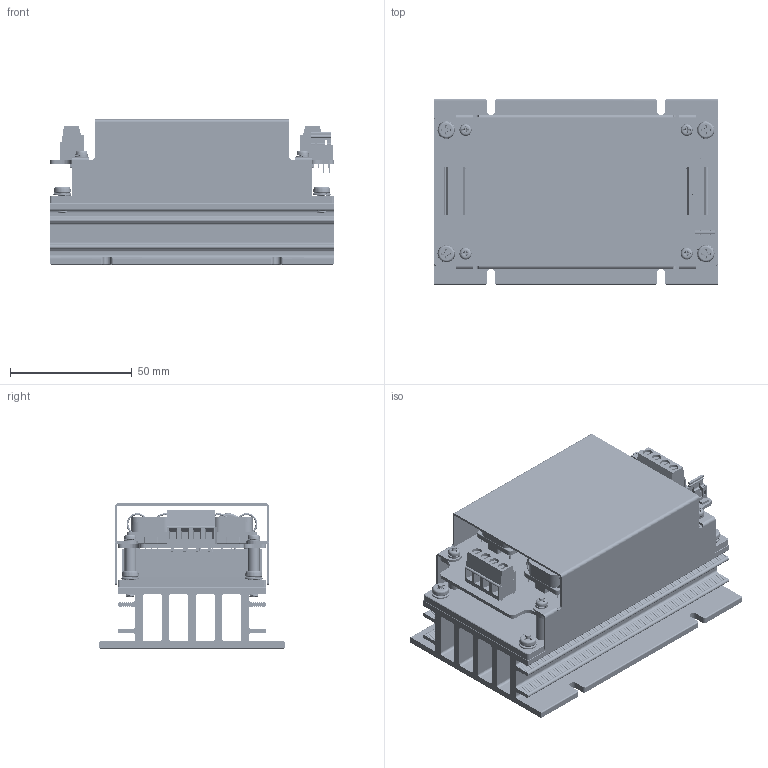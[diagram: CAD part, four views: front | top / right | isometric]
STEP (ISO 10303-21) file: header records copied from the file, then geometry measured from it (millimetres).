
FILE_DESCRIPTION (( 'STEP AP203' ), '1' );
FILE_NAME ('CQB50W12 CMFD+HS 2025.01.02.STEP', '2025-01-03T09:27:24', ( '' ), ( '' ), 'SwSTEP 2.0', 'SolidWorks 2020', '' );
FILE_SCHEMA (( 'CONFIG_CONTROL_DESIGN' ));
Products named in the file (1): CQB50W12 CMFD+HS 2025.01.02
Bounding box: 116.84 x 76.2 x 59.7 mm (x, y, z)
Volume: 179487.5 mm3; surface area: 124842.3 mm2
Topology: 20 solids, 24 shells, 2925 faces, 9183 edges, 5839 vertices
Faces by surface type: plane 1687, cylinder 610, bspline 395, cone 141, torus 58, sphere 34
Full cylindrical faces by diameter (mm): 0.5 x16, 0.942 x8, 1.02 x6, 1.2 x6, 1.5 x2, 2.2 x2, 2.5 x28, 3.2 x9, 3.25 x1, 3.5 x4, 3.8 x8, 3.9 x20, 4 x11, 4.3 x2, 4.45 x4, 4.5 x8, 4.7 x8, 5 x2, 8.635 x2, 8.762 x1, 11.775 x2, 12.56 x2
Entity records: 345294 total; most frequent: CARTESIAN_POINT 271831, ORIENTED_EDGE 16838, DIRECTION 12693, EDGE_CURVE 8419, VERTEX_POINT 5616, LINE 5013, VECTOR 5013, AXIS2_PLACEMENT_3D 3840
